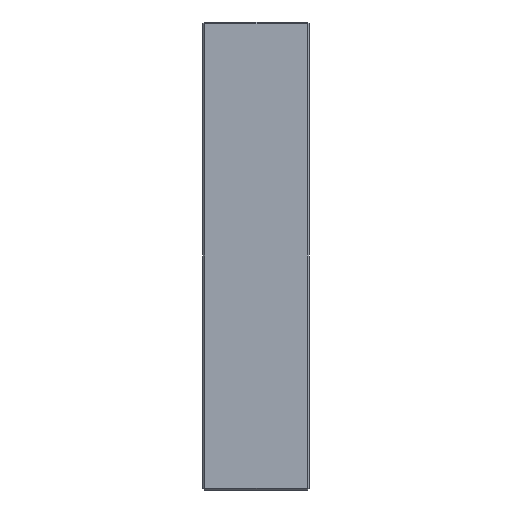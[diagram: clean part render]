
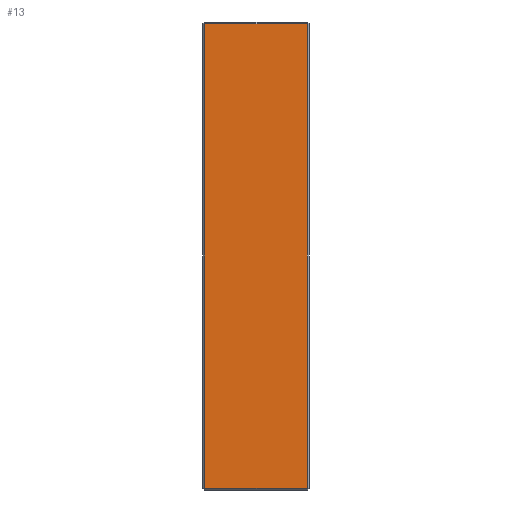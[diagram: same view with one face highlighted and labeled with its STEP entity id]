
A CAD part, left-side view. The second image highlights one B-rep face of the part: STEP entity #13.
In plain terms, the highlighted planar face has unit normal (-1, 0, 0).
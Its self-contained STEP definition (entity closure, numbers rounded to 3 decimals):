
#13 = ADVANCED_FACE ( 'NONE', ( #1318 ), #1800, .F. ) ;
#17 = VERTEX_POINT ( 'NONE', #2102 ) ;
#143 = LINE ( 'NONE', #1276, #1708 ) ;
#178 = CARTESIAN_POINT ( 'NONE',  ( -78., 55., 123. ) ) ;
#221 = EDGE_CURVE ( 'NONE', #783, #17, #1989, .T. ) ;
#259 = DIRECTION ( 'NONE',  ( 0., 0., -1. ) ) ;
#334 = CARTESIAN_POINT ( 'NONE',  ( -78., 56., 122. ) ) ;
#358 = VECTOR ( 'NONE', #1155, 1000. ) ;
#406 = CARTESIAN_POINT ( 'NONE',  ( -78., 55., -122. ) ) ;
#434 = ORIENTED_EDGE ( 'NONE', *, *, #221, .T. ) ;
#575 = CARTESIAN_POINT ( 'NONE',  ( -78., 56., 123. ) ) ;
#583 = VERTEX_POINT ( 'NONE', #2163 ) ;
#766 = DIRECTION ( 'NONE',  ( 1., 0., 0. ) ) ;
#783 = VERTEX_POINT ( 'NONE', #1215 ) ;
#806 = VECTOR ( 'NONE', #1673, 1000. ) ;
#899 = EDGE_CURVE ( 'NONE', #583, #783, #143, .T. ) ;
#1046 = EDGE_CURVE ( 'NONE', #17, #2364, #1329, .T. ) ;
#1155 = DIRECTION ( 'NONE',  ( 0., 1., 0. ) ) ;
#1202 = CARTESIAN_POINT ( 'NONE',  ( -78., 56., -122. ) ) ;
#1215 = CARTESIAN_POINT ( 'NONE',  ( -78., 1., 122. ) ) ;
#1226 = ORIENTED_EDGE ( 'NONE', *, *, #1046, .T. ) ;
#1276 = CARTESIAN_POINT ( 'NONE',  ( -78., 1., 123. ) ) ;
#1295 = ORIENTED_EDGE ( 'NONE', *, *, #899, .T. ) ;
#1318 = FACE_OUTER_BOUND ( 'NONE', #2466, .T. ) ;
#1329 = LINE ( 'NONE', #178, #2336 ) ;
#1410 = DIRECTION ( 'NONE',  ( 0., 0., -1. ) ) ;
#1673 = DIRECTION ( 'NONE',  ( 0., -1., 0. ) ) ;
#1708 = VECTOR ( 'NONE', #2493, 1000. ) ;
#1800 = PLANE ( 'NONE',  #2546 ) ;
#1908 = LINE ( 'NONE', #1202, #806 ) ;
#1989 = LINE ( 'NONE', #334, #358 ) ;
#2102 = CARTESIAN_POINT ( 'NONE',  ( -78., 55., 122. ) ) ;
#2163 = CARTESIAN_POINT ( 'NONE',  ( -78., 1., -122. ) ) ;
#2240 = EDGE_CURVE ( 'NONE', #2364, #583, #1908, .T. ) ;
#2305 = ORIENTED_EDGE ( 'NONE', *, *, #2240, .T. ) ;
#2336 = VECTOR ( 'NONE', #1410, 1000. ) ;
#2364 = VERTEX_POINT ( 'NONE', #406 ) ;
#2466 = EDGE_LOOP ( 'NONE', ( #434, #1226, #2305, #1295 ) ) ;
#2493 = DIRECTION ( 'NONE',  ( 0., 0., 1. ) ) ;
#2546 = AXIS2_PLACEMENT_3D ( 'NONE', #575, #766, #259 ) ;
